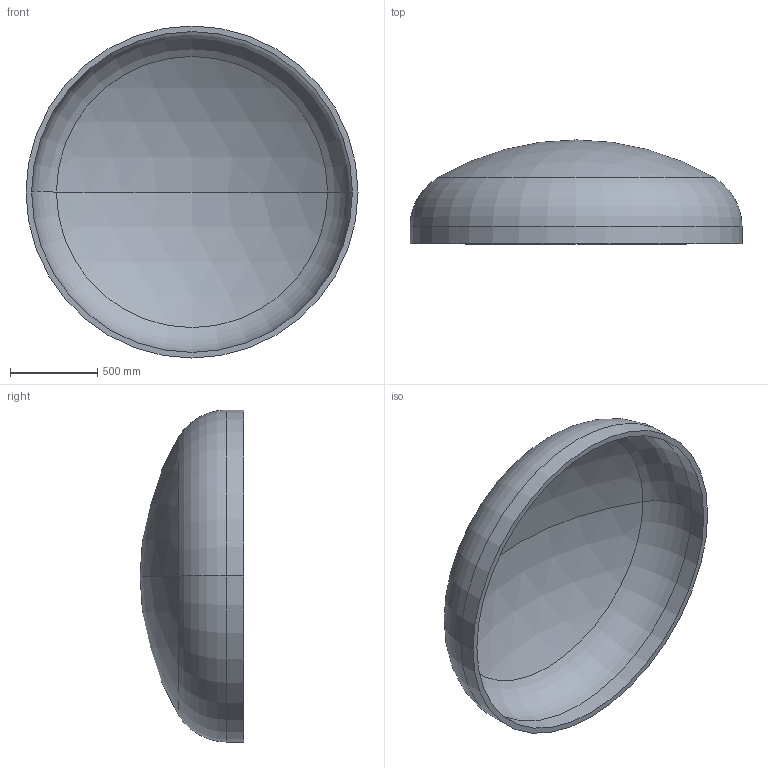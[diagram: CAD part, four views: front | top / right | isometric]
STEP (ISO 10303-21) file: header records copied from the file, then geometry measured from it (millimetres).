
FILE_DESCRIPTION (( 'STEP AP203' ), '1' );
FILE_NAME ('DIN 28013 Korbbogenform_-_Boden DIN 28013 - 1900 x 100 - I - s=32.step', '2016-07-01T13:04:57', ( '' ), ( '' ), 'SwSTEP 2.0', 'SolidWorks 2013', '' );
FILE_SCHEMA (( 'CONFIG_CONTROL_DESIGN' ));
Length unit declared in the file: millimetre
Products named in the file (1): DIN 28013 Korbbogenform_-_Boden DIN 28013 - 1900 x 100 - I - s=32
Bounding box: 1900 x 594.4 x 1900 mm (x, y, z)
Volume: 141460657.5 mm3; surface area: 9031224.6 mm2
Topology: 1 solids, 1 shells, 13 faces, 24 edges, 14 vertices
Faces by surface type: torus 4, cylinder 4, sphere 4, plane 1
Entity records: 407 total; most frequent: DIRECTION 72, CARTESIAN_POINT 52, ORIENTED_EDGE 48, AXIS2_PLACEMENT_3D 34, EDGE_CURVE 24, CIRCLE 20, VERTEX_POINT 14, EDGE_LOOP 14
